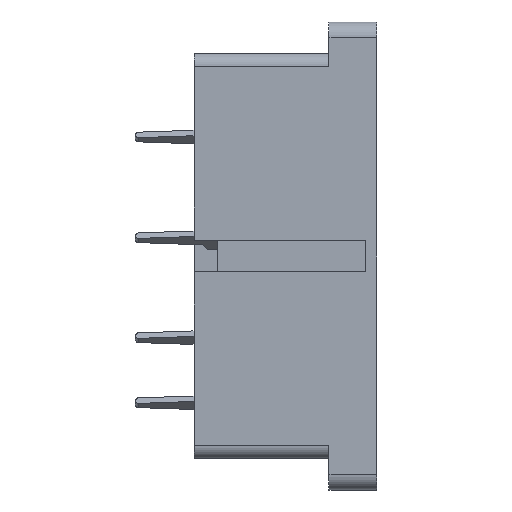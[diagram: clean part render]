
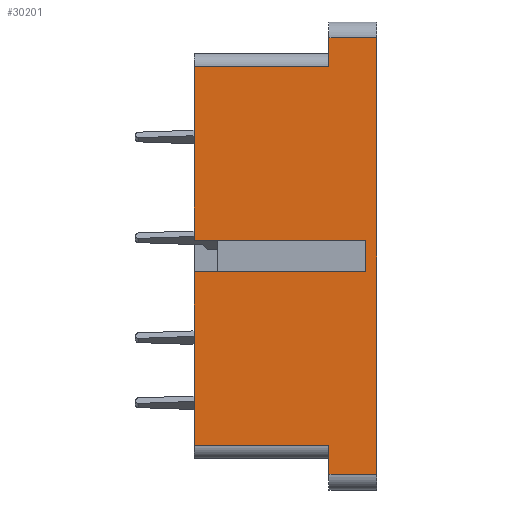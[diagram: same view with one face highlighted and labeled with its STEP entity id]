
A CAD part, left-side view. The second image highlights one B-rep face of the part: STEP entity #30201.
In plain terms, the highlighted planar face has unit normal (-1, 0, 0).
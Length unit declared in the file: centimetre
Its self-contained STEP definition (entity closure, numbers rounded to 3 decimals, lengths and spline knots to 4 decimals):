
#2599=FACE_OUTER_BOUND('',#4077,.T.);
#4077=EDGE_LOOP('',(#27435,#27436,#27437,#27438,#27439,#27440,#27441,#27442,
#27443,#27444,#27445,#27446));
#7288=LINE('',#47084,#11114);
#7807=LINE('',#48202,#11633);
#7811=LINE('',#48211,#11637);
#7819=LINE('',#48227,#11645);
#7826=LINE('',#48243,#11652);
#7836=LINE('',#48267,#11662);
#7839=LINE('',#48277,#11665);
#7848=LINE('',#48293,#11674);
#7890=LINE('',#48372,#11716);
#7897=LINE('',#48384,#11723);
#7898=LINE('',#48386,#11724);
#7922=LINE('',#48432,#11748);
#11114=VECTOR('',#38484,2.75);
#11633=VECTOR('',#39559,0.85);
#11637=VECTOR('',#39567,1.095);
#11645=VECTOR('',#39575,1.095);
#11652=VECTOR('',#39586,0.85);
#11662=VECTOR('',#39610,0.3);
#11665=VECTOR('',#39621,0.18);
#11674=VECTOR('',#39634,0.3);
#11716=VECTOR('',#39712,1.08);
#11723=VECTOR('',#39723,1.08);
#11724=VECTOR('',#39726,0.2);
#11748=VECTOR('',#39782,0.18);
#14228=VERTEX_POINT('',#47081);
#14229=VERTEX_POINT('',#47083);
#14547=VERTEX_POINT('',#48195);
#14550=VERTEX_POINT('',#48200);
#14553=VERTEX_POINT('',#48210);
#14560=VERTEX_POINT('',#48224);
#14561=VERTEX_POINT('',#48226);
#14568=VERTEX_POINT('',#48242);
#14575=VERTEX_POINT('',#48265);
#14578=VERTEX_POINT('',#48275);
#14602=VERTEX_POINT('',#48371);
#14605=VERTEX_POINT('',#48382);
#18260=EDGE_CURVE('',#14228,#14229,#7288,.T.);
#18841=EDGE_CURVE('',#14550,#14547,#7807,.T.);
#18845=EDGE_CURVE('',#14547,#14553,#7811,.T.);
#18853=EDGE_CURVE('',#14560,#14561,#7819,.T.);
#18861=EDGE_CURVE('',#14561,#14568,#7826,.T.);
#18874=EDGE_CURVE('',#14575,#14228,#7836,.T.);
#18879=EDGE_CURVE('',#14578,#14550,#7839,.T.);
#18888=EDGE_CURVE('',#14229,#14578,#7848,.T.);
#18930=EDGE_CURVE('',#14602,#14553,#7890,.T.);
#18937=EDGE_CURVE('',#14560,#14605,#7897,.T.);
#18938=EDGE_CURVE('',#14605,#14602,#7898,.T.);
#18962=EDGE_CURVE('',#14568,#14575,#7922,.T.);
#27435=ORIENTED_EDGE('',*,*,#18879,.F.);
#27436=ORIENTED_EDGE('',*,*,#18888,.F.);
#27437=ORIENTED_EDGE('',*,*,#18260,.F.);
#27438=ORIENTED_EDGE('',*,*,#18874,.F.);
#27439=ORIENTED_EDGE('',*,*,#18962,.F.);
#27440=ORIENTED_EDGE('',*,*,#18861,.F.);
#27441=ORIENTED_EDGE('',*,*,#18853,.F.);
#27442=ORIENTED_EDGE('',*,*,#18937,.T.);
#27443=ORIENTED_EDGE('',*,*,#18938,.T.);
#27444=ORIENTED_EDGE('',*,*,#18930,.T.);
#27445=ORIENTED_EDGE('',*,*,#18845,.F.);
#27446=ORIENTED_EDGE('',*,*,#18841,.F.);
#28809=PLANE('',#32143);
#30201=ADVANCED_FACE('',(#2599),#28809,.T.);
#32143=AXIS2_PLACEMENT_3D('',#48433,#39783,#39784);
#38484=DIRECTION('',(0.,0.,-1.));
#39559=DIRECTION('',(0.,1.,0.));
#39567=DIRECTION('',(0.,0.,1.));
#39575=DIRECTION('',(0.,0.,1.));
#39586=DIRECTION('',(0.,-1.,0.));
#39610=DIRECTION('',(0.,-1.,0.));
#39621=DIRECTION('',(0.,0.,1.));
#39634=DIRECTION('',(0.,1.,0.));
#39712=DIRECTION('',(0.,1.,0.));
#39723=DIRECTION('',(0.,-1.,0.));
#39726=DIRECTION('',(0.,0.,-1.));
#39782=DIRECTION('',(0.,0.,1.));
#39783=DIRECTION('center_axis',(-1.,0.,0.));
#39784=DIRECTION('ref_axis',(0.,0.,1.));
#47081=CARTESIAN_POINT('',(1.2497,-0.5658,0.8));
#47083=CARTESIAN_POINT('',(1.2497,-0.5658,-1.95));
#47084=CARTESIAN_POINT('',(1.2497,-0.5658,0.9));
#48195=CARTESIAN_POINT('',(1.2497,0.5842,-1.77));
#48200=CARTESIAN_POINT('',(1.2497,-0.2658,-1.77));
#48202=CARTESIAN_POINT('',(1.2497,0.0092,-1.77));
#48210=CARTESIAN_POINT('',(1.2497,0.5842,-0.675));
#48211=CARTESIAN_POINT('',(1.2497,0.5842,0.9));
#48224=CARTESIAN_POINT('',(1.2497,0.5842,-0.475));
#48226=CARTESIAN_POINT('',(1.2497,0.5842,0.62));
#48227=CARTESIAN_POINT('',(1.2497,0.5842,0.9));
#48242=CARTESIAN_POINT('',(1.2497,-0.2658,0.62));
#48243=CARTESIAN_POINT('',(1.2497,0.0092,0.62));
#48265=CARTESIAN_POINT('',(1.2497,-0.2658,0.8));
#48267=CARTESIAN_POINT('',(1.2497,-0.5658,0.8));
#48275=CARTESIAN_POINT('',(1.2497,-0.2658,-1.95));
#48277=CARTESIAN_POINT('',(1.2497,-0.2658,-2.));
#48293=CARTESIAN_POINT('',(1.2497,-0.5658,-1.95));
#48371=CARTESIAN_POINT('',(1.2497,-0.4958,-0.675));
#48372=CARTESIAN_POINT('',(1.2497,0.0092,-0.675));
#48382=CARTESIAN_POINT('',(1.2497,-0.4958,-0.475));
#48384=CARTESIAN_POINT('',(1.2497,0.0092,-0.475));
#48386=CARTESIAN_POINT('',(1.2497,-0.4958,-1.3125));
#48432=CARTESIAN_POINT('',(1.2497,-0.2658,-0.625));
#48433=CARTESIAN_POINT('Origin',(1.2497,-0.5658,-2.05));
